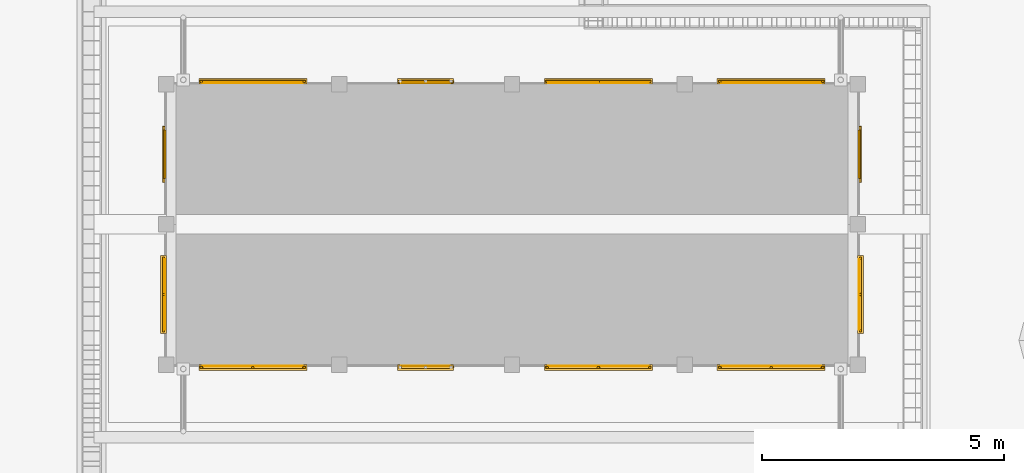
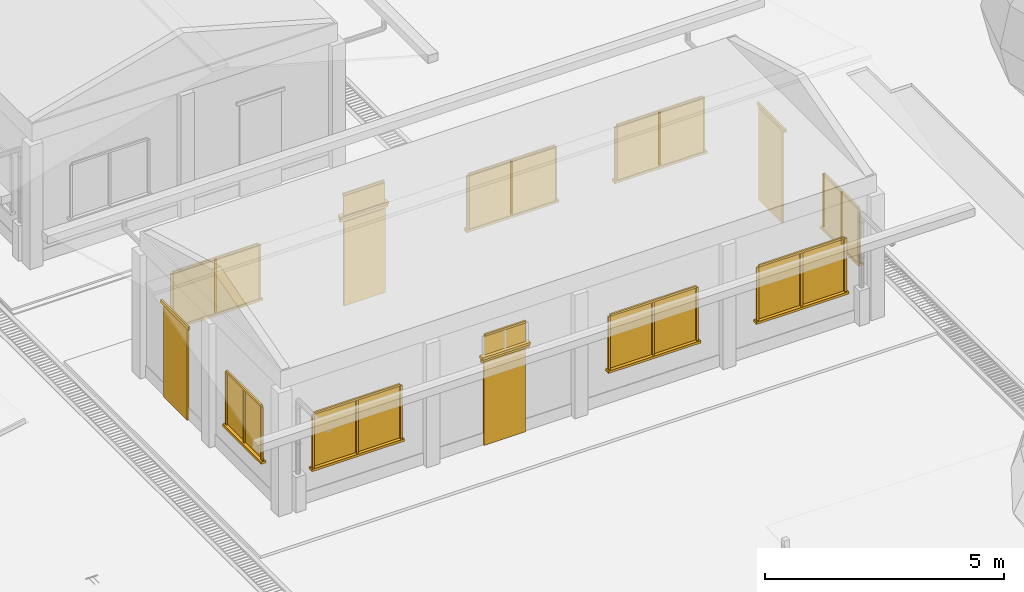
# One storey, part 39 of 166: 54 windows, 8 doors.
"""IFC2X3 building model written with IfcOpenShell, lengths in metres."""

from ifc_helpers import new_model, si_unit, origin, origin_with_axes, place, context, subcontext, project, spatial, faceted_brep, element, save


model = new_model("IFC2X3")

# Units and contexts
model_context = context("Model", 3, precision=1e-05, world=origin_with_axes())
body_context = subcontext(model_context, "Body", "Model", "MODEL_VIEW")
ifc_project = project(units=[si_unit("LENGTHUNIT", "METRE"), si_unit("AREAUNIT", "SQUARE_METRE"), si_unit("VOLUMEUNIT", "CUBIC_METRE"), si_unit("PLANEANGLEUNIT", "RADIAN")], contexts=[model_context])

# Site, building, storey
site_placement = place(None, origin_with_axes())
site = spatial("IfcSite", under=ifc_project, at=site_placement, Name="Predio Los Mangos - Morales, San Martín", CompositionType="ELEMENT")
building_placement = place(site_placement, origin())
building = spatial("IfcBuilding", under=site, at=building_placement, Name="Hogar de Refugio Temporal", CompositionType="ELEMENT")
storey_placement = place(building_placement, origin())
storey = spatial("IfcBuildingStorey", under=building, at=storey_placement, Name="NIVEL 1 (NPT +0.00)", CompositionType="ELEMENT", Elevation=0.0)

# Windows
window_1_placement = place(storey_placement, origin())
element("IfcWindow", 1, at=window_1_placement, inside=storey, Name="E-03_v0_vid", ObjectType="Ventana", context=body_context, shape_type="Brep", body=[
    faceted_brep([(46.0508, 32.46, 1.05), (46.0508, 32.48, 1.05), (48.1242, 32.48, 1.05), (48.1242, 32.46, 1.05), (46.0508, 32.46, 2.4), (48.1242, 32.46, 2.4), (48.1242, 32.48, 2.4), (46.0508, 32.48, 2.4)], [[[0, 1, 2, 3]], [[4, 5, 6, 7]], [[0, 3, 5, 4]], [[3, 2, 6, 5]], [[2, 1, 7, 6]], [[1, 0, 4, 7]]]),
])
window_2_placement = place(storey_placement, origin())
element("IfcWindow", 2, at=window_2_placement, inside=storey, Name="E-03_v0_m", ObjectType="Ventana", context=body_context, shape_type="Brep", body=[
    faceted_brep([(46.0008, 32.42, 1.05), (46.0008, 32.46, 1.05), (46.0508, 32.46, 1.05), (46.0508, 32.42, 1.05), (46.0008, 32.42, 2.4), (46.0508, 32.42, 2.4), (46.0508, 32.46, 2.4), (46.0008, 32.46, 2.4)], [[[0, 1, 2, 3]], [[4, 5, 6, 7]], [[0, 3, 5, 4]], [[3, 2, 6, 5]], [[2, 1, 7, 6]], [[1, 0, 4, 7]]]),
])
window_3_placement = place(storey_placement, origin())
element("IfcWindow", 3, at=window_3_placement, inside=storey, Name="E-03_v0_m", ObjectType="Ventana", context=body_context, shape_type="Brep", body=[
    faceted_brep([(48.1242, 32.42, 1.05), (48.1242, 32.46, 1.05), (48.1743, 32.46, 1.05), (48.1743, 32.42, 1.05), (48.1242, 32.42, 2.4), (48.1743, 32.42, 2.4), (48.1743, 32.46, 2.4), (48.1242, 32.46, 2.4)], [[[0, 1, 2, 3]], [[4, 5, 6, 7]], [[0, 3, 5, 4]], [[3, 2, 6, 5]], [[2, 1, 7, 6]], [[1, 0, 4, 7]]]),
])
window_4_placement = place(storey_placement, origin())
element("IfcWindow", 4, at=window_4_placement, inside=storey, Name="E-03_v0_m", ObjectType="Ventana", context=body_context, shape_type="Brep", body=[
    faceted_brep([(46.0508, 32.42, 2.4), (46.0508, 32.46, 2.4), (48.1242, 32.46, 2.4), (48.1242, 32.42, 2.4), (46.0508, 32.42, 2.45), (48.1242, 32.42, 2.45), (48.1242, 32.46, 2.45), (46.0508, 32.46, 2.45)], [[[0, 1, 2, 3]], [[4, 5, 6, 7]], [[0, 3, 5, 4]], [[3, 2, 6, 5]], [[2, 1, 7, 6]], [[1, 0, 4, 7]]]),
])
window_5_placement = place(storey_placement, origin())
element("IfcWindow", 5, at=window_5_placement, inside=storey, Name="E-03_v0_m", ObjectType="Ventana", context=body_context, shape_type="Brep", body=[
    faceted_brep([(47.0625, 32.42, 1.05), (47.0625, 32.46, 1.05), (47.1125, 32.46, 1.05), (47.1125, 32.42, 1.05), (47.0625, 32.42, 2.4), (47.1125, 32.42, 2.4), (47.1125, 32.46, 2.4), (47.0625, 32.46, 2.4)], [[[0, 1, 2, 3]], [[4, 5, 6, 7]], [[0, 3, 5, 4]], [[3, 2, 6, 5]], [[2, 1, 7, 6]], [[1, 0, 4, 7]]]),
])
window_6_placement = place(storey_placement, origin())
element("IfcWindow", 6, at=window_6_placement, inside=storey, Name="E-03_v0_alf", ObjectType="Ventana", context=body_context, shape_type="Brep", body=[
    faceted_brep([(45.9707, 32.5, 0.99), (45.9707, 32.38, 0.99), (48.2043, 32.38, 0.99), (48.2043, 32.5, 0.99), (45.9707, 32.5, 1.05), (48.2043, 32.5, 1.05), (48.2043, 32.38, 1.05), (45.9707, 32.38, 1.05)], [[[0, 1, 2, 3]], [[4, 5, 6, 7]], [[0, 3, 5, 4]], [[3, 2, 6, 5]], [[2, 1, 7, 6]], [[1, 0, 4, 7]]]),
])

# Doors
door_1_placement = place(storey_placement, origin())
element("IfcDoor", 7, at=door_1_placement, inside=storey, Name="E-03_p1", ObjectType="Puerta", context=body_context, shape_type="Brep", body=[
    faceted_brep([(50.1625, 32.45, 0.15), (50.1625, 32.49, 0.15), (51.1625, 32.49, 0.15), (51.1625, 32.45, 0.15), (50.1625, 32.45, 2.3), (51.1625, 32.45, 2.3), (51.1625, 32.49, 2.3), (50.1625, 32.49, 2.3)], [[[0, 1, 2, 3]], [[4, 5, 6, 7]], [[0, 3, 5, 4]], [[3, 2, 6, 5]], [[2, 1, 7, 6]], [[1, 0, 4, 7]]]),
])
door_2_placement = place(storey_placement, origin())
element("IfcDoor", 8, at=door_2_placement, inside=storey, Name="E-03_p1_marco", ObjectType="Puerta", context=body_context, shape_type="Brep", body=[
    faceted_brep([(50.0825, 32.43, 2.3), (50.0825, 32.47, 2.3), (51.2425, 32.47, 2.3), (51.2425, 32.43, 2.3), (50.0825, 32.43, 2.38), (51.2425, 32.43, 2.38), (51.2425, 32.47, 2.38), (50.0825, 32.47, 2.38)], [[[0, 1, 2, 3]], [[4, 5, 6, 7]], [[0, 3, 5, 4]], [[3, 2, 6, 5]], [[2, 1, 7, 6]], [[1, 0, 4, 7]]]),
])

# Windows
window_7_placement = place(storey_placement, origin())
element("IfcWindow", 9, at=window_7_placement, inside=storey, Name="E-03_vt1_vid", ObjectType="Ventana", context=body_context, shape_type="Brep", body=[
    faceted_brep([(50.1625, 32.46, 2.45), (50.1625, 32.48, 2.45), (51.1625, 32.48, 2.45), (51.1625, 32.46, 2.45), (50.1625, 32.46, 2.95), (51.1625, 32.46, 2.95), (51.1625, 32.48, 2.95), (50.1625, 32.48, 2.95)], [[[0, 1, 2, 3]], [[4, 5, 6, 7]], [[0, 3, 5, 4]], [[3, 2, 6, 5]], [[2, 1, 7, 6]], [[1, 0, 4, 7]]]),
])
window_8_placement = place(storey_placement, origin())
element("IfcWindow", 10, at=window_8_placement, inside=storey, Name="E-03_vt1_m", ObjectType="Ventana", context=body_context, shape_type="Brep", body=[
    faceted_brep([(50.1625, 32.42, 2.95), (50.1625, 32.46, 2.95), (51.1625, 32.46, 2.95), (51.1625, 32.42, 2.95), (50.1625, 32.42, 3.0), (51.1625, 32.42, 3.0), (51.1625, 32.46, 3.0), (50.1625, 32.46, 3.0)], [[[0, 1, 2, 3]], [[4, 5, 6, 7]], [[0, 3, 5, 4]], [[3, 2, 6, 5]], [[2, 1, 7, 6]], [[1, 0, 4, 7]]]),
])
window_9_placement = place(storey_placement, origin())
element("IfcWindow", 11, at=window_9_placement, inside=storey, Name="E-03_vt1_alf", ObjectType="Ventana", context=body_context, shape_type="Brep", body=[
    faceted_brep([(50.0825, 32.5, 2.39), (50.0825, 32.38, 2.39), (51.2425, 32.38, 2.39), (51.2425, 32.5, 2.39), (50.0825, 32.5, 2.45), (51.2425, 32.5, 2.45), (51.2425, 32.38, 2.45), (50.0825, 32.38, 2.45)], [[[0, 1, 2, 3]], [[4, 5, 6, 7]], [[0, 3, 5, 4]], [[3, 2, 6, 5]], [[2, 1, 7, 6]], [[1, 0, 4, 7]]]),
])
window_10_placement = place(storey_placement, origin())
element("IfcWindow", 12, at=window_10_placement, inside=storey, Name="E-03_v2_vid", ObjectType="Ventana", context=body_context, shape_type="Brep", body=[
    faceted_brep([(53.2007, 32.46, 1.05), (53.2007, 32.48, 1.05), (55.2743, 32.48, 1.05), (55.2743, 32.46, 1.05), (53.2007, 32.46, 2.4), (55.2743, 32.46, 2.4), (55.2743, 32.48, 2.4), (53.2007, 32.48, 2.4)], [[[0, 1, 2, 3]], [[4, 5, 6, 7]], [[0, 3, 5, 4]], [[3, 2, 6, 5]], [[2, 1, 7, 6]], [[1, 0, 4, 7]]]),
])
window_11_placement = place(storey_placement, origin())
element("IfcWindow", 13, at=window_11_placement, inside=storey, Name="E-03_v2_m", ObjectType="Ventana", context=body_context, shape_type="Brep", body=[
    faceted_brep([(53.1507, 32.42, 1.05), (53.1507, 32.46, 1.05), (53.2007, 32.46, 1.05), (53.2007, 32.42, 1.05), (53.1507, 32.42, 2.4), (53.2007, 32.42, 2.4), (53.2007, 32.46, 2.4), (53.1507, 32.46, 2.4)], [[[0, 1, 2, 3]], [[4, 5, 6, 7]], [[0, 3, 5, 4]], [[3, 2, 6, 5]], [[2, 1, 7, 6]], [[1, 0, 4, 7]]]),
])
window_12_placement = place(storey_placement, origin())
element("IfcWindow", 14, at=window_12_placement, inside=storey, Name="E-03_v2_m", ObjectType="Ventana", context=body_context, shape_type="Brep", body=[
    faceted_brep([(55.2743, 32.42, 1.05), (55.2743, 32.46, 1.05), (55.3242, 32.46, 1.05), (55.3242, 32.42, 1.05), (55.2743, 32.42, 2.4), (55.3242, 32.42, 2.4), (55.3242, 32.46, 2.4), (55.2743, 32.46, 2.4)], [[[0, 1, 2, 3]], [[4, 5, 6, 7]], [[0, 3, 5, 4]], [[3, 2, 6, 5]], [[2, 1, 7, 6]], [[1, 0, 4, 7]]]),
])
window_13_placement = place(storey_placement, origin())
element("IfcWindow", 15, at=window_13_placement, inside=storey, Name="E-03_v2_m", ObjectType="Ventana", context=body_context, shape_type="Brep", body=[
    faceted_brep([(53.2007, 32.42, 2.4), (53.2007, 32.46, 2.4), (55.2743, 32.46, 2.4), (55.2743, 32.42, 2.4), (53.2007, 32.42, 2.45), (55.2743, 32.42, 2.45), (55.2743, 32.46, 2.45), (53.2007, 32.46, 2.45)], [[[0, 1, 2, 3]], [[4, 5, 6, 7]], [[0, 3, 5, 4]], [[3, 2, 6, 5]], [[2, 1, 7, 6]], [[1, 0, 4, 7]]]),
])
window_14_placement = place(storey_placement, origin())
element("IfcWindow", 16, at=window_14_placement, inside=storey, Name="E-03_v2_m", ObjectType="Ventana", context=body_context, shape_type="Brep", body=[
    faceted_brep([(54.2125, 32.42, 1.05), (54.2125, 32.46, 1.05), (54.2625, 32.46, 1.05), (54.2625, 32.42, 1.05), (54.2125, 32.42, 2.4), (54.2625, 32.42, 2.4), (54.2625, 32.46, 2.4), (54.2125, 32.46, 2.4)], [[[0, 1, 2, 3]], [[4, 5, 6, 7]], [[0, 3, 5, 4]], [[3, 2, 6, 5]], [[2, 1, 7, 6]], [[1, 0, 4, 7]]]),
])
window_15_placement = place(storey_placement, origin())
element("IfcWindow", 17, at=window_15_placement, inside=storey, Name="E-03_v2_alf", ObjectType="Ventana", context=body_context, shape_type="Brep", body=[
    faceted_brep([(53.1208, 32.5, 0.99), (53.1208, 32.38, 0.99), (55.3543, 32.38, 0.99), (55.3543, 32.5, 0.99), (53.1208, 32.5, 1.05), (55.3543, 32.5, 1.05), (55.3543, 32.38, 1.05), (53.1208, 32.38, 1.05)], [[[0, 1, 2, 3]], [[4, 5, 6, 7]], [[0, 3, 5, 4]], [[3, 2, 6, 5]], [[2, 1, 7, 6]], [[1, 0, 4, 7]]]),
])
window_16_placement = place(storey_placement, origin())
element("IfcWindow", 18, at=window_16_placement, inside=storey, Name="E-03_v3_vid", ObjectType="Ventana", context=body_context, shape_type="Brep", body=[
    faceted_brep([(56.7757, 32.46, 1.05), (56.7757, 32.48, 1.05), (58.8493, 32.48, 1.05), (58.8493, 32.46, 1.05), (56.7757, 32.46, 2.4), (58.8493, 32.46, 2.4), (58.8493, 32.48, 2.4), (56.7757, 32.48, 2.4)], [[[0, 1, 2, 3]], [[4, 5, 6, 7]], [[0, 3, 5, 4]], [[3, 2, 6, 5]], [[2, 1, 7, 6]], [[1, 0, 4, 7]]]),
])
window_17_placement = place(storey_placement, origin())
element("IfcWindow", 19, at=window_17_placement, inside=storey, Name="E-03_v3_m", ObjectType="Ventana", context=body_context, shape_type="Brep", body=[
    faceted_brep([(56.7257, 32.42, 1.05), (56.7257, 32.46, 1.05), (56.7757, 32.46, 1.05), (56.7757, 32.42, 1.05), (56.7257, 32.42, 2.4), (56.7757, 32.42, 2.4), (56.7757, 32.46, 2.4), (56.7257, 32.46, 2.4)], [[[0, 1, 2, 3]], [[4, 5, 6, 7]], [[0, 3, 5, 4]], [[3, 2, 6, 5]], [[2, 1, 7, 6]], [[1, 0, 4, 7]]]),
])
window_18_placement = place(storey_placement, origin())
element("IfcWindow", 20, at=window_18_placement, inside=storey, Name="E-03_v3_m", ObjectType="Ventana", context=body_context, shape_type="Brep", body=[
    faceted_brep([(58.8493, 32.42, 1.05), (58.8493, 32.46, 1.05), (58.8993, 32.46, 1.05), (58.8993, 32.42, 1.05), (58.8493, 32.42, 2.4), (58.8993, 32.42, 2.4), (58.8993, 32.46, 2.4), (58.8493, 32.46, 2.4)], [[[0, 1, 2, 3]], [[4, 5, 6, 7]], [[0, 3, 5, 4]], [[3, 2, 6, 5]], [[2, 1, 7, 6]], [[1, 0, 4, 7]]]),
])
window_19_placement = place(storey_placement, origin())
element("IfcWindow", 21, at=window_19_placement, inside=storey, Name="E-03_v3_m", ObjectType="Ventana", context=body_context, shape_type="Brep", body=[
    faceted_brep([(56.7757, 32.42, 2.4), (56.7757, 32.46, 2.4), (58.8493, 32.46, 2.4), (58.8493, 32.42, 2.4), (56.7757, 32.42, 2.45), (58.8493, 32.42, 2.45), (58.8493, 32.46, 2.45), (56.7757, 32.46, 2.45)], [[[0, 1, 2, 3]], [[4, 5, 6, 7]], [[0, 3, 5, 4]], [[3, 2, 6, 5]], [[2, 1, 7, 6]], [[1, 0, 4, 7]]]),
])
window_20_placement = place(storey_placement, origin())
element("IfcWindow", 22, at=window_20_placement, inside=storey, Name="E-03_v3_m", ObjectType="Ventana", context=body_context, shape_type="Brep", body=[
    faceted_brep([(57.7875, 32.42, 1.05), (57.7875, 32.46, 1.05), (57.8375, 32.46, 1.05), (57.8375, 32.42, 1.05), (57.7875, 32.42, 2.4), (57.8375, 32.42, 2.4), (57.8375, 32.46, 2.4), (57.7875, 32.46, 2.4)], [[[0, 1, 2, 3]], [[4, 5, 6, 7]], [[0, 3, 5, 4]], [[3, 2, 6, 5]], [[2, 1, 7, 6]], [[1, 0, 4, 7]]]),
])
window_21_placement = place(storey_placement, origin())
element("IfcWindow", 23, at=window_21_placement, inside=storey, Name="E-03_v3_alf", ObjectType="Ventana", context=body_context, shape_type="Brep", body=[
    faceted_brep([(56.6958, 32.5, 0.99), (56.6958, 32.38, 0.99), (58.9292, 32.38, 0.99), (58.9292, 32.5, 0.99), (56.6958, 32.5, 1.05), (58.9292, 32.5, 1.05), (58.9292, 32.38, 1.05), (56.6958, 32.38, 1.05)], [[[0, 1, 2, 3]], [[4, 5, 6, 7]], [[0, 3, 5, 4]], [[3, 2, 6, 5]], [[2, 1, 7, 6]], [[1, 0, 4, 7]]]),
])
window_22_placement = place(storey_placement, origin())
element("IfcWindow", 24, at=window_22_placement, inside=storey, Name="E-03_v0_vid", ObjectType="Ventana", context=body_context, shape_type="Brep", body=[
    faceted_brep([(46.0508, 38.32, 1.05), (46.0508, 38.34, 1.05), (48.1242, 38.34, 1.05), (48.1242, 38.32, 1.05), (46.0508, 38.32, 2.4), (48.1242, 38.32, 2.4), (48.1242, 38.34, 2.4), (46.0508, 38.34, 2.4)], [[[0, 1, 2, 3]], [[4, 5, 6, 7]], [[0, 3, 5, 4]], [[3, 2, 6, 5]], [[2, 1, 7, 6]], [[1, 0, 4, 7]]]),
])
window_23_placement = place(storey_placement, origin())
element("IfcWindow", 25, at=window_23_placement, inside=storey, Name="E-03_v0_m", ObjectType="Ventana", context=body_context, shape_type="Brep", body=[
    faceted_brep([(46.0008, 38.34, 1.05), (46.0008, 38.38, 1.05), (46.0508, 38.38, 1.05), (46.0508, 38.34, 1.05), (46.0008, 38.34, 2.4), (46.0508, 38.34, 2.4), (46.0508, 38.38, 2.4), (46.0008, 38.38, 2.4)], [[[0, 1, 2, 3]], [[4, 5, 6, 7]], [[0, 3, 5, 4]], [[3, 2, 6, 5]], [[2, 1, 7, 6]], [[1, 0, 4, 7]]]),
])
window_24_placement = place(storey_placement, origin())
element("IfcWindow", 26, at=window_24_placement, inside=storey, Name="E-03_v0_m", ObjectType="Ventana", context=body_context, shape_type="Brep", body=[
    faceted_brep([(48.1242, 38.34, 1.05), (48.1242, 38.38, 1.05), (48.1743, 38.38, 1.05), (48.1743, 38.34, 1.05), (48.1242, 38.34, 2.4), (48.1743, 38.34, 2.4), (48.1743, 38.38, 2.4), (48.1242, 38.38, 2.4)], [[[0, 1, 2, 3]], [[4, 5, 6, 7]], [[0, 3, 5, 4]], [[3, 2, 6, 5]], [[2, 1, 7, 6]], [[1, 0, 4, 7]]]),
])
window_25_placement = place(storey_placement, origin())
element("IfcWindow", 27, at=window_25_placement, inside=storey, Name="E-03_v0_m", ObjectType="Ventana", context=body_context, shape_type="Brep", body=[
    faceted_brep([(46.0508, 38.34, 2.4), (46.0508, 38.38, 2.4), (48.1242, 38.38, 2.4), (48.1242, 38.34, 2.4), (46.0508, 38.34, 2.45), (48.1242, 38.34, 2.45), (48.1242, 38.38, 2.45), (46.0508, 38.38, 2.45)], [[[0, 1, 2, 3]], [[4, 5, 6, 7]], [[0, 3, 5, 4]], [[3, 2, 6, 5]], [[2, 1, 7, 6]], [[1, 0, 4, 7]]]),
])
window_26_placement = place(storey_placement, origin())
element("IfcWindow", 28, at=window_26_placement, inside=storey, Name="E-03_v0_m", ObjectType="Ventana", context=body_context, shape_type="Brep", body=[
    faceted_brep([(47.0625, 38.34, 1.05), (47.0625, 38.38, 1.05), (47.1125, 38.38, 1.05), (47.1125, 38.34, 1.05), (47.0625, 38.34, 2.4), (47.1125, 38.34, 2.4), (47.1125, 38.38, 2.4), (47.0625, 38.38, 2.4)], [[[0, 1, 2, 3]], [[4, 5, 6, 7]], [[0, 3, 5, 4]], [[3, 2, 6, 5]], [[2, 1, 7, 6]], [[1, 0, 4, 7]]]),
])
window_27_placement = place(storey_placement, origin())
element("IfcWindow", 29, at=window_27_placement, inside=storey, Name="E-03_v0_alf", ObjectType="Ventana", context=body_context, shape_type="Brep", body=[
    faceted_brep([(45.9707, 38.3, 0.99), (45.9707, 38.42, 0.99), (48.2043, 38.42, 0.99), (48.2043, 38.3, 0.99), (45.9707, 38.3, 1.05), (48.2043, 38.3, 1.05), (48.2043, 38.42, 1.05), (45.9707, 38.42, 1.05)], [[[0, 1, 2, 3]], [[4, 5, 6, 7]], [[0, 3, 5, 4]], [[3, 2, 6, 5]], [[2, 1, 7, 6]], [[1, 0, 4, 7]]]),
])

# Doors
door_3_placement = place(storey_placement, origin())
element("IfcDoor", 30, at=door_3_placement, inside=storey, Name="E-03_p1", ObjectType="Puerta", context=body_context, shape_type="Brep", body=[
    faceted_brep([(50.1625, 38.31, 0.15), (50.1625, 38.35, 0.15), (51.1625, 38.35, 0.15), (51.1625, 38.31, 0.15), (50.1625, 38.31, 2.3), (51.1625, 38.31, 2.3), (51.1625, 38.35, 2.3), (50.1625, 38.35, 2.3)], [[[0, 1, 2, 3]], [[4, 5, 6, 7]], [[0, 3, 5, 4]], [[3, 2, 6, 5]], [[2, 1, 7, 6]], [[1, 0, 4, 7]]]),
])
door_4_placement = place(storey_placement, origin())
element("IfcDoor", 31, at=door_4_placement, inside=storey, Name="E-03_p1_marco", ObjectType="Puerta", context=body_context, shape_type="Brep", body=[
    faceted_brep([(50.0825, 38.33, 2.3), (50.0825, 38.37, 2.3), (51.2425, 38.37, 2.3), (51.2425, 38.33, 2.3), (50.0825, 38.33, 2.38), (51.2425, 38.33, 2.38), (51.2425, 38.37, 2.38), (50.0825, 38.37, 2.38)], [[[0, 1, 2, 3]], [[4, 5, 6, 7]], [[0, 3, 5, 4]], [[3, 2, 6, 5]], [[2, 1, 7, 6]], [[1, 0, 4, 7]]]),
])

# Windows
window_28_placement = place(storey_placement, origin())
element("IfcWindow", 32, at=window_28_placement, inside=storey, Name="E-03_vt1_vid", ObjectType="Ventana", context=body_context, shape_type="Brep", body=[
    faceted_brep([(50.1625, 38.32, 2.45), (50.1625, 38.34, 2.45), (51.1625, 38.34, 2.45), (51.1625, 38.32, 2.45), (50.1625, 38.32, 2.95), (51.1625, 38.32, 2.95), (51.1625, 38.34, 2.95), (50.1625, 38.34, 2.95)], [[[0, 1, 2, 3]], [[4, 5, 6, 7]], [[0, 3, 5, 4]], [[3, 2, 6, 5]], [[2, 1, 7, 6]], [[1, 0, 4, 7]]]),
])
window_29_placement = place(storey_placement, origin())
element("IfcWindow", 33, at=window_29_placement, inside=storey, Name="E-03_vt1_m", ObjectType="Ventana", context=body_context, shape_type="Brep", body=[
    faceted_brep([(50.1625, 38.34, 2.95), (50.1625, 38.38, 2.95), (51.1625, 38.38, 2.95), (51.1625, 38.34, 2.95), (50.1625, 38.34, 3.0), (51.1625, 38.34, 3.0), (51.1625, 38.38, 3.0), (50.1625, 38.38, 3.0)], [[[0, 1, 2, 3]], [[4, 5, 6, 7]], [[0, 3, 5, 4]], [[3, 2, 6, 5]], [[2, 1, 7, 6]], [[1, 0, 4, 7]]]),
])
window_30_placement = place(storey_placement, origin())
element("IfcWindow", 34, at=window_30_placement, inside=storey, Name="E-03_vt1_alf", ObjectType="Ventana", context=body_context, shape_type="Brep", body=[
    faceted_brep([(50.0825, 38.3, 2.39), (50.0825, 38.42, 2.39), (51.2425, 38.42, 2.39), (51.2425, 38.3, 2.39), (50.0825, 38.3, 2.45), (51.2425, 38.3, 2.45), (51.2425, 38.42, 2.45), (50.0825, 38.42, 2.45)], [[[0, 1, 2, 3]], [[4, 5, 6, 7]], [[0, 3, 5, 4]], [[3, 2, 6, 5]], [[2, 1, 7, 6]], [[1, 0, 4, 7]]]),
])
window_31_placement = place(storey_placement, origin())
element("IfcWindow", 35, at=window_31_placement, inside=storey, Name="E-03_v2_vid", ObjectType="Ventana", context=body_context, shape_type="Brep", body=[
    faceted_brep([(53.2007, 38.32, 1.05), (53.2007, 38.34, 1.05), (55.2743, 38.34, 1.05), (55.2743, 38.32, 1.05), (53.2007, 38.32, 2.4), (55.2743, 38.32, 2.4), (55.2743, 38.34, 2.4), (53.2007, 38.34, 2.4)], [[[0, 1, 2, 3]], [[4, 5, 6, 7]], [[0, 3, 5, 4]], [[3, 2, 6, 5]], [[2, 1, 7, 6]], [[1, 0, 4, 7]]]),
])
window_32_placement = place(storey_placement, origin())
element("IfcWindow", 36, at=window_32_placement, inside=storey, Name="E-03_v2_m", ObjectType="Ventana", context=body_context, shape_type="Brep", body=[
    faceted_brep([(53.1507, 38.34, 1.05), (53.1507, 38.38, 1.05), (53.2007, 38.38, 1.05), (53.2007, 38.34, 1.05), (53.1507, 38.34, 2.4), (53.2007, 38.34, 2.4), (53.2007, 38.38, 2.4), (53.1507, 38.38, 2.4)], [[[0, 1, 2, 3]], [[4, 5, 6, 7]], [[0, 3, 5, 4]], [[3, 2, 6, 5]], [[2, 1, 7, 6]], [[1, 0, 4, 7]]]),
])
window_33_placement = place(storey_placement, origin())
element("IfcWindow", 37, at=window_33_placement, inside=storey, Name="E-03_v2_m", ObjectType="Ventana", context=body_context, shape_type="Brep", body=[
    faceted_brep([(55.2743, 38.34, 1.05), (55.2743, 38.38, 1.05), (55.3242, 38.38, 1.05), (55.3242, 38.34, 1.05), (55.2743, 38.34, 2.4), (55.3242, 38.34, 2.4), (55.3242, 38.38, 2.4), (55.2743, 38.38, 2.4)], [[[0, 1, 2, 3]], [[4, 5, 6, 7]], [[0, 3, 5, 4]], [[3, 2, 6, 5]], [[2, 1, 7, 6]], [[1, 0, 4, 7]]]),
])
window_34_placement = place(storey_placement, origin())
element("IfcWindow", 38, at=window_34_placement, inside=storey, Name="E-03_v2_m", ObjectType="Ventana", context=body_context, shape_type="Brep", body=[
    faceted_brep([(53.2007, 38.34, 2.4), (53.2007, 38.38, 2.4), (55.2743, 38.38, 2.4), (55.2743, 38.34, 2.4), (53.2007, 38.34, 2.45), (55.2743, 38.34, 2.45), (55.2743, 38.38, 2.45), (53.2007, 38.38, 2.45)], [[[0, 1, 2, 3]], [[4, 5, 6, 7]], [[0, 3, 5, 4]], [[3, 2, 6, 5]], [[2, 1, 7, 6]], [[1, 0, 4, 7]]]),
])
window_35_placement = place(storey_placement, origin())
element("IfcWindow", 39, at=window_35_placement, inside=storey, Name="E-03_v2_m", ObjectType="Ventana", context=body_context, shape_type="Brep", body=[
    faceted_brep([(54.2125, 38.34, 1.05), (54.2125, 38.38, 1.05), (54.2625, 38.38, 1.05), (54.2625, 38.34, 1.05), (54.2125, 38.34, 2.4), (54.2625, 38.34, 2.4), (54.2625, 38.38, 2.4), (54.2125, 38.38, 2.4)], [[[0, 1, 2, 3]], [[4, 5, 6, 7]], [[0, 3, 5, 4]], [[3, 2, 6, 5]], [[2, 1, 7, 6]], [[1, 0, 4, 7]]]),
])
window_36_placement = place(storey_placement, origin())
element("IfcWindow", 40, at=window_36_placement, inside=storey, Name="E-03_v2_alf", ObjectType="Ventana", context=body_context, shape_type="Brep", body=[
    faceted_brep([(53.1208, 38.3, 0.99), (53.1208, 38.42, 0.99), (55.3543, 38.42, 0.99), (55.3543, 38.3, 0.99), (53.1208, 38.3, 1.05), (55.3543, 38.3, 1.05), (55.3543, 38.42, 1.05), (53.1208, 38.42, 1.05)], [[[0, 1, 2, 3]], [[4, 5, 6, 7]], [[0, 3, 5, 4]], [[3, 2, 6, 5]], [[2, 1, 7, 6]], [[1, 0, 4, 7]]]),
])
window_37_placement = place(storey_placement, origin())
element("IfcWindow", 41, at=window_37_placement, inside=storey, Name="E-03_v3_vid", ObjectType="Ventana", context=body_context, shape_type="Brep", body=[
    faceted_brep([(56.7757, 38.32, 1.05), (56.7757, 38.34, 1.05), (58.8493, 38.34, 1.05), (58.8493, 38.32, 1.05), (56.7757, 38.32, 2.4), (58.8493, 38.32, 2.4), (58.8493, 38.34, 2.4), (56.7757, 38.34, 2.4)], [[[0, 1, 2, 3]], [[4, 5, 6, 7]], [[0, 3, 5, 4]], [[3, 2, 6, 5]], [[2, 1, 7, 6]], [[1, 0, 4, 7]]]),
])
window_38_placement = place(storey_placement, origin())
element("IfcWindow", 42, at=window_38_placement, inside=storey, Name="E-03_v3_m", ObjectType="Ventana", context=body_context, shape_type="Brep", body=[
    faceted_brep([(56.7257, 38.34, 1.05), (56.7257, 38.38, 1.05), (56.7757, 38.38, 1.05), (56.7757, 38.34, 1.05), (56.7257, 38.34, 2.4), (56.7757, 38.34, 2.4), (56.7757, 38.38, 2.4), (56.7257, 38.38, 2.4)], [[[0, 1, 2, 3]], [[4, 5, 6, 7]], [[0, 3, 5, 4]], [[3, 2, 6, 5]], [[2, 1, 7, 6]], [[1, 0, 4, 7]]]),
])
window_39_placement = place(storey_placement, origin())
element("IfcWindow", 43, at=window_39_placement, inside=storey, Name="E-03_v3_m", ObjectType="Ventana", context=body_context, shape_type="Brep", body=[
    faceted_brep([(58.8493, 38.34, 1.05), (58.8493, 38.38, 1.05), (58.8993, 38.38, 1.05), (58.8993, 38.34, 1.05), (58.8493, 38.34, 2.4), (58.8993, 38.34, 2.4), (58.8993, 38.38, 2.4), (58.8493, 38.38, 2.4)], [[[0, 1, 2, 3]], [[4, 5, 6, 7]], [[0, 3, 5, 4]], [[3, 2, 6, 5]], [[2, 1, 7, 6]], [[1, 0, 4, 7]]]),
])
window_40_placement = place(storey_placement, origin())
element("IfcWindow", 44, at=window_40_placement, inside=storey, Name="E-03_v3_m", ObjectType="Ventana", context=body_context, shape_type="Brep", body=[
    faceted_brep([(56.7757, 38.34, 2.4), (56.7757, 38.38, 2.4), (58.8493, 38.38, 2.4), (58.8493, 38.34, 2.4), (56.7757, 38.34, 2.45), (58.8493, 38.34, 2.45), (58.8493, 38.38, 2.45), (56.7757, 38.38, 2.45)], [[[0, 1, 2, 3]], [[4, 5, 6, 7]], [[0, 3, 5, 4]], [[3, 2, 6, 5]], [[2, 1, 7, 6]], [[1, 0, 4, 7]]]),
])
window_41_placement = place(storey_placement, origin())
element("IfcWindow", 45, at=window_41_placement, inside=storey, Name="E-03_v3_m", ObjectType="Ventana", context=body_context, shape_type="Brep", body=[
    faceted_brep([(57.7875, 38.34, 1.05), (57.7875, 38.38, 1.05), (57.8375, 38.38, 1.05), (57.8375, 38.34, 1.05), (57.7875, 38.34, 2.4), (57.8375, 38.34, 2.4), (57.8375, 38.38, 2.4), (57.7875, 38.38, 2.4)], [[[0, 1, 2, 3]], [[4, 5, 6, 7]], [[0, 3, 5, 4]], [[3, 2, 6, 5]], [[2, 1, 7, 6]], [[1, 0, 4, 7]]]),
])
window_42_placement = place(storey_placement, origin())
element("IfcWindow", 46, at=window_42_placement, inside=storey, Name="E-03_v3_alf", ObjectType="Ventana", context=body_context, shape_type="Brep", body=[
    faceted_brep([(56.6958, 38.3, 0.99), (56.6958, 38.42, 0.99), (58.9292, 38.42, 0.99), (58.9292, 38.3, 0.99), (56.6958, 38.3, 1.05), (58.9292, 38.3, 1.05), (58.9292, 38.42, 1.05), (56.6958, 38.42, 1.05)], [[[0, 1, 2, 3]], [[4, 5, 6, 7]], [[0, 3, 5, 4]], [[3, 2, 6, 5]], [[2, 1, 7, 6]], [[1, 0, 4, 7]]]),
])
window_43_placement = place(storey_placement, origin())
element("IfcWindow", 47, at=window_43_placement, inside=storey, Name="E-03_vg0_vid", ObjectType="Ventana", context=body_context, shape_type="Brep", body=[
    faceted_brep([(45.26, 33.225, 1.05), (45.26, 34.675, 1.05), (45.28, 34.675, 1.05), (45.28, 33.225, 1.05), (45.26, 33.225, 2.4), (45.28, 33.225, 2.4), (45.28, 34.675, 2.4), (45.26, 34.675, 2.4)], [[[0, 1, 2, 3]], [[4, 5, 6, 7]], [[0, 3, 5, 4]], [[3, 2, 6, 5]], [[2, 1, 7, 6]], [[1, 0, 4, 7]]]),
])
window_44_placement = place(storey_placement, origin())
element("IfcWindow", 48, at=window_44_placement, inside=storey, Name="E-03_vg0_m", ObjectType="Ventana", context=body_context, shape_type="Brep", body=[
    faceted_brep([(45.22, 33.175, 1.05), (45.22, 33.225, 1.05), (45.26, 33.225, 1.05), (45.26, 33.175, 1.05), (45.22, 33.175, 2.4), (45.26, 33.175, 2.4), (45.26, 33.225, 2.4), (45.22, 33.225, 2.4)], [[[0, 1, 2, 3]], [[4, 5, 6, 7]], [[0, 3, 5, 4]], [[3, 2, 6, 5]], [[2, 1, 7, 6]], [[1, 0, 4, 7]]]),
])
window_45_placement = place(storey_placement, origin())
element("IfcWindow", 49, at=window_45_placement, inside=storey, Name="E-03_vg0_m", ObjectType="Ventana", context=body_context, shape_type="Brep", body=[
    faceted_brep([(45.22, 34.675, 1.05), (45.22, 34.725, 1.05), (45.26, 34.725, 1.05), (45.26, 34.675, 1.05), (45.22, 34.675, 2.4), (45.26, 34.675, 2.4), (45.26, 34.725, 2.4), (45.22, 34.725, 2.4)], [[[0, 1, 2, 3]], [[4, 5, 6, 7]], [[0, 3, 5, 4]], [[3, 2, 6, 5]], [[2, 1, 7, 6]], [[1, 0, 4, 7]]]),
])
window_46_placement = place(storey_placement, origin())
element("IfcWindow", 50, at=window_46_placement, inside=storey, Name="E-03_vg0_m", ObjectType="Ventana", context=body_context, shape_type="Brep", body=[
    faceted_brep([(45.22, 33.225, 2.4), (45.22, 34.675, 2.4), (45.26, 34.675, 2.4), (45.26, 33.225, 2.4), (45.22, 33.225, 2.45), (45.26, 33.225, 2.45), (45.26, 34.675, 2.45), (45.22, 34.675, 2.45)], [[[0, 1, 2, 3]], [[4, 5, 6, 7]], [[0, 3, 5, 4]], [[3, 2, 6, 5]], [[2, 1, 7, 6]], [[1, 0, 4, 7]]]),
])
window_47_placement = place(storey_placement, origin())
element("IfcWindow", 51, at=window_47_placement, inside=storey, Name="E-03_vg0_m", ObjectType="Ventana", context=body_context, shape_type="Brep", body=[
    faceted_brep([(45.22, 33.925, 1.05), (45.22, 33.975, 1.05), (45.26, 33.975, 1.05), (45.26, 33.925, 1.05), (45.22, 33.925, 2.4), (45.26, 33.925, 2.4), (45.26, 33.975, 2.4), (45.22, 33.975, 2.4)], [[[0, 1, 2, 3]], [[4, 5, 6, 7]], [[0, 3, 5, 4]], [[3, 2, 6, 5]], [[2, 1, 7, 6]], [[1, 0, 4, 7]]]),
])
window_48_placement = place(storey_placement, origin())
element("IfcWindow", 52, at=window_48_placement, inside=storey, Name="E-03_vg0_alf", ObjectType="Ventana", context=body_context, shape_type="Brep", body=[
    faceted_brep([(45.3, 33.145, 0.99), (45.3, 34.755, 0.99), (45.18, 34.755, 0.99), (45.18, 33.145, 0.99), (45.3, 33.145, 1.05), (45.18, 33.145, 1.05), (45.18, 34.755, 1.05), (45.3, 34.755, 1.05)], [[[0, 1, 2, 3]], [[4, 5, 6, 7]], [[0, 3, 5, 4]], [[3, 2, 6, 5]], [[2, 1, 7, 6]], [[1, 0, 4, 7]]]),
])

# Doors
door_5_placement = place(storey_placement, origin())
element("IfcDoor", 53, at=door_5_placement, inside=storey, Name="E-03_pp", ObjectType="Puerta", context=body_context, shape_type="Brep", body=[
    faceted_brep([(45.25, 36.35, 0.15), (45.25, 37.35, 0.15), (45.29, 37.35, 0.15), (45.29, 36.35, 0.15), (45.25, 36.35, 2.5), (45.29, 36.35, 2.5), (45.29, 37.35, 2.5), (45.25, 37.35, 2.5)], [[[0, 1, 2, 3]], [[4, 5, 6, 7]], [[0, 3, 5, 4]], [[3, 2, 6, 5]], [[2, 1, 7, 6]], [[1, 0, 4, 7]]]),
])
door_6_placement = place(storey_placement, origin())
element("IfcDoor", 54, at=door_6_placement, inside=storey, Name="E-03_pp_marco", ObjectType="Puerta", context=body_context, shape_type="Brep", body=[
    faceted_brep([(45.23, 36.27, 2.5), (45.23, 37.43, 2.5), (45.27, 37.43, 2.5), (45.27, 36.27, 2.5), (45.23, 36.27, 2.58), (45.27, 36.27, 2.58), (45.27, 37.43, 2.58), (45.23, 37.43, 2.58)], [[[0, 1, 2, 3]], [[4, 5, 6, 7]], [[0, 3, 5, 4]], [[3, 2, 6, 5]], [[2, 1, 7, 6]], [[1, 0, 4, 7]]]),
])

# Windows
window_49_placement = place(storey_placement, origin())
element("IfcWindow", 55, at=window_49_placement, inside=storey, Name="E-03_vg0_vid", ObjectType="Ventana", context=body_context, shape_type="Brep", body=[
    faceted_brep([(59.62, 33.225, 1.05), (59.62, 34.675, 1.05), (59.64, 34.675, 1.05), (59.64, 33.225, 1.05), (59.62, 33.225, 2.4), (59.64, 33.225, 2.4), (59.64, 34.675, 2.4), (59.62, 34.675, 2.4)], [[[0, 1, 2, 3]], [[4, 5, 6, 7]], [[0, 3, 5, 4]], [[3, 2, 6, 5]], [[2, 1, 7, 6]], [[1, 0, 4, 7]]]),
])
window_50_placement = place(storey_placement, origin())
element("IfcWindow", 56, at=window_50_placement, inside=storey, Name="E-03_vg0_m", ObjectType="Ventana", context=body_context, shape_type="Brep", body=[
    faceted_brep([(59.64, 33.175, 1.05), (59.64, 33.225, 1.05), (59.68, 33.225, 1.05), (59.68, 33.175, 1.05), (59.64, 33.175, 2.4), (59.68, 33.175, 2.4), (59.68, 33.225, 2.4), (59.64, 33.225, 2.4)], [[[0, 1, 2, 3]], [[4, 5, 6, 7]], [[0, 3, 5, 4]], [[3, 2, 6, 5]], [[2, 1, 7, 6]], [[1, 0, 4, 7]]]),
])
window_51_placement = place(storey_placement, origin())
element("IfcWindow", 57, at=window_51_placement, inside=storey, Name="E-03_vg0_m", ObjectType="Ventana", context=body_context, shape_type="Brep", body=[
    faceted_brep([(59.64, 34.675, 1.05), (59.64, 34.725, 1.05), (59.68, 34.725, 1.05), (59.68, 34.675, 1.05), (59.64, 34.675, 2.4), (59.68, 34.675, 2.4), (59.68, 34.725, 2.4), (59.64, 34.725, 2.4)], [[[0, 1, 2, 3]], [[4, 5, 6, 7]], [[0, 3, 5, 4]], [[3, 2, 6, 5]], [[2, 1, 7, 6]], [[1, 0, 4, 7]]]),
])
window_52_placement = place(storey_placement, origin())
element("IfcWindow", 58, at=window_52_placement, inside=storey, Name="E-03_vg0_m", ObjectType="Ventana", context=body_context, shape_type="Brep", body=[
    faceted_brep([(59.64, 33.225, 2.4), (59.64, 34.675, 2.4), (59.68, 34.675, 2.4), (59.68, 33.225, 2.4), (59.64, 33.225, 2.45), (59.68, 33.225, 2.45), (59.68, 34.675, 2.45), (59.64, 34.675, 2.45)], [[[0, 1, 2, 3]], [[4, 5, 6, 7]], [[0, 3, 5, 4]], [[3, 2, 6, 5]], [[2, 1, 7, 6]], [[1, 0, 4, 7]]]),
])
window_53_placement = place(storey_placement, origin())
element("IfcWindow", 59, at=window_53_placement, inside=storey, Name="E-03_vg0_m", ObjectType="Ventana", context=body_context, shape_type="Brep", body=[
    faceted_brep([(59.64, 33.925, 1.05), (59.64, 33.975, 1.05), (59.68, 33.975, 1.05), (59.68, 33.925, 1.05), (59.64, 33.925, 2.4), (59.68, 33.925, 2.4), (59.68, 33.975, 2.4), (59.64, 33.975, 2.4)], [[[0, 1, 2, 3]], [[4, 5, 6, 7]], [[0, 3, 5, 4]], [[3, 2, 6, 5]], [[2, 1, 7, 6]], [[1, 0, 4, 7]]]),
])
window_54_placement = place(storey_placement, origin())
element("IfcWindow", 60, at=window_54_placement, inside=storey, Name="E-03_vg0_alf", ObjectType="Ventana", context=body_context, shape_type="Brep", body=[
    faceted_brep([(59.6, 33.145, 0.99), (59.6, 34.755, 0.99), (59.72, 34.755, 0.99), (59.72, 33.145, 0.99), (59.6, 33.145, 1.05), (59.72, 33.145, 1.05), (59.72, 34.755, 1.05), (59.6, 34.755, 1.05)], [[[0, 1, 2, 3]], [[4, 5, 6, 7]], [[0, 3, 5, 4]], [[3, 2, 6, 5]], [[2, 1, 7, 6]], [[1, 0, 4, 7]]]),
])

# Doors
door_7_placement = place(storey_placement, origin())
element("IfcDoor", 61, at=door_7_placement, inside=storey, Name="E-03_pp", ObjectType="Puerta", context=body_context, shape_type="Brep", body=[
    faceted_brep([(59.61, 36.35, 0.15), (59.61, 37.35, 0.15), (59.65, 37.35, 0.15), (59.65, 36.35, 0.15), (59.61, 36.35, 2.5), (59.65, 36.35, 2.5), (59.65, 37.35, 2.5), (59.61, 37.35, 2.5)], [[[0, 1, 2, 3]], [[4, 5, 6, 7]], [[0, 3, 5, 4]], [[3, 2, 6, 5]], [[2, 1, 7, 6]], [[1, 0, 4, 7]]]),
])
door_8_placement = place(storey_placement, origin())
element("IfcDoor", 62, at=door_8_placement, inside=storey, Name="E-03_pp_marco", ObjectType="Puerta", context=body_context, shape_type="Brep", body=[
    faceted_brep([(59.63, 36.27, 2.5), (59.63, 37.43, 2.5), (59.67, 37.43, 2.5), (59.67, 36.27, 2.5), (59.63, 36.27, 2.58), (59.67, 36.27, 2.58), (59.67, 37.43, 2.58), (59.63, 37.43, 2.58)], [[[0, 1, 2, 3]], [[4, 5, 6, 7]], [[0, 3, 5, 4]], [[3, 2, 6, 5]], [[2, 1, 7, 6]], [[1, 0, 4, 7]]]),
])

save(model, "model.ifc")
